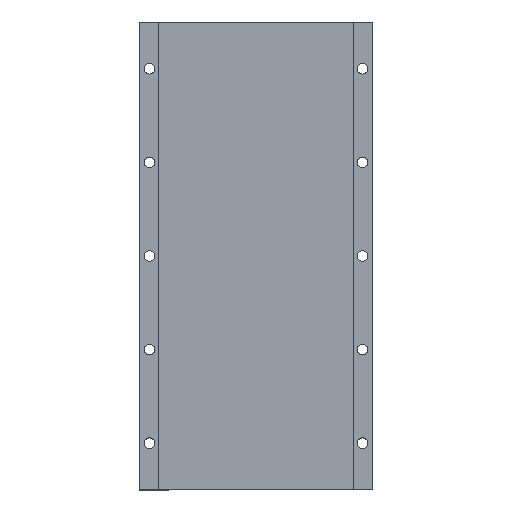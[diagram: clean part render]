
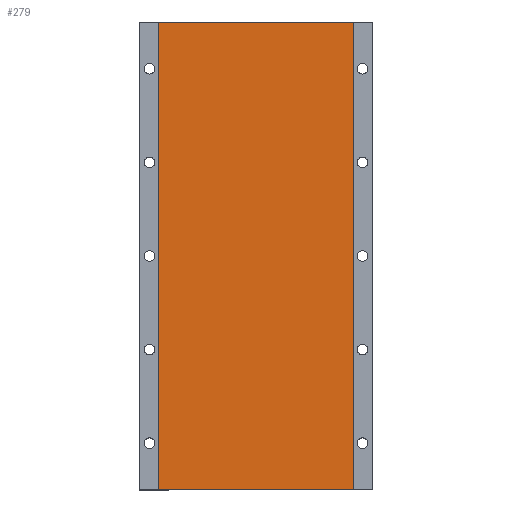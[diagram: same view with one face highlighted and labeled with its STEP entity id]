
A CAD part, top view. The second image highlights one B-rep face of the part: STEP entity #279.
In plain terms, the highlighted planar face has unit normal (0, 0, 1).
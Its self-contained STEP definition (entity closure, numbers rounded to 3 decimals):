
#10 = DIRECTION ( 'NONE',  ( 1., 0., 0. ) ) ;
#26 = DIRECTION ( 'NONE',  ( -1., 0., 0. ) ) ;
#71 = VERTEX_POINT ( 'NONE', #208 ) ;
#137 = EDGE_LOOP ( 'NONE', ( #430, #973, #788, #471 ) ) ;
#153 = VECTOR ( 'NONE', #26, 1000. ) ;
#176 = FACE_OUTER_BOUND ( 'NONE', #137, .T. ) ;
#208 = CARTESIAN_POINT ( 'NONE',  ( -16.673, 200., 5.35 ) ) ;
#236 = EDGE_CURVE ( 'NONE', #827, #737, #518, .T. ) ;
#243 = CARTESIAN_POINT ( 'NONE',  ( -16.673, 116.479, 5.35 ) ) ;
#249 = EDGE_CURVE ( 'NONE', #71, #827, #608, .T. ) ;
#279 = ADVANCED_FACE ( 'NONE', ( #176 ), #733, .T. ) ;
#427 = DIRECTION ( 'NONE',  ( 0., 1., 0. ) ) ;
#429 = DIRECTION ( 'NONE',  ( 0., 1., 0. ) ) ;
#430 = ORIENTED_EDGE ( 'NONE', *, *, #1071, .T. ) ;
#432 = LINE ( 'NONE', #243, #884 ) ;
#440 = CARTESIAN_POINT ( 'NONE',  ( 66.227, 400., 5.35 ) ) ;
#471 = ORIENTED_EDGE ( 'NONE', *, *, #236, .T. ) ;
#492 = CARTESIAN_POINT ( 'NONE',  ( 0., 0., 5.35 ) ) ;
#518 = LINE ( 'NONE', #661, #985 ) ;
#538 = EDGE_CURVE ( 'NONE', #71, #807, #432, .T. ) ;
#548 = CARTESIAN_POINT ( 'NONE',  ( 66.727, 400., 5.35 ) ) ;
#552 = CARTESIAN_POINT ( 'NONE',  ( -16.673, 400., 5.35 ) ) ;
#579 = DIRECTION ( 'NONE',  ( 1., 0., 0. ) ) ;
#608 = LINE ( 'NONE', #993, #1001 ) ;
#661 = CARTESIAN_POINT ( 'NONE',  ( 66.727, 116.479, 5.35 ) ) ;
#720 = CARTESIAN_POINT ( 'NONE',  ( 66.727, 200., 5.35 ) ) ;
#733 = PLANE ( 'NONE',  #797 ) ;
#737 = VERTEX_POINT ( 'NONE', #548 ) ;
#788 = ORIENTED_EDGE ( 'NONE', *, *, #249, .T. ) ;
#797 = AXIS2_PLACEMENT_3D ( 'NONE', #492, #1067, #579 ) ;
#807 = VERTEX_POINT ( 'NONE', #552 ) ;
#827 = VERTEX_POINT ( 'NONE', #720 ) ;
#845 = LINE ( 'NONE', #440, #153 ) ;
#884 = VECTOR ( 'NONE', #429, 1000. ) ;
#973 = ORIENTED_EDGE ( 'NONE', *, *, #538, .F. ) ;
#985 = VECTOR ( 'NONE', #427, 1000. ) ;
#993 = CARTESIAN_POINT ( 'NONE',  ( -16.173, 200., 5.35 ) ) ;
#1001 = VECTOR ( 'NONE', #10, 1000. ) ;
#1067 = DIRECTION ( 'NONE',  ( 0., 0., 1. ) ) ;
#1071 = EDGE_CURVE ( 'NONE', #737, #807, #845, .T. ) ;
